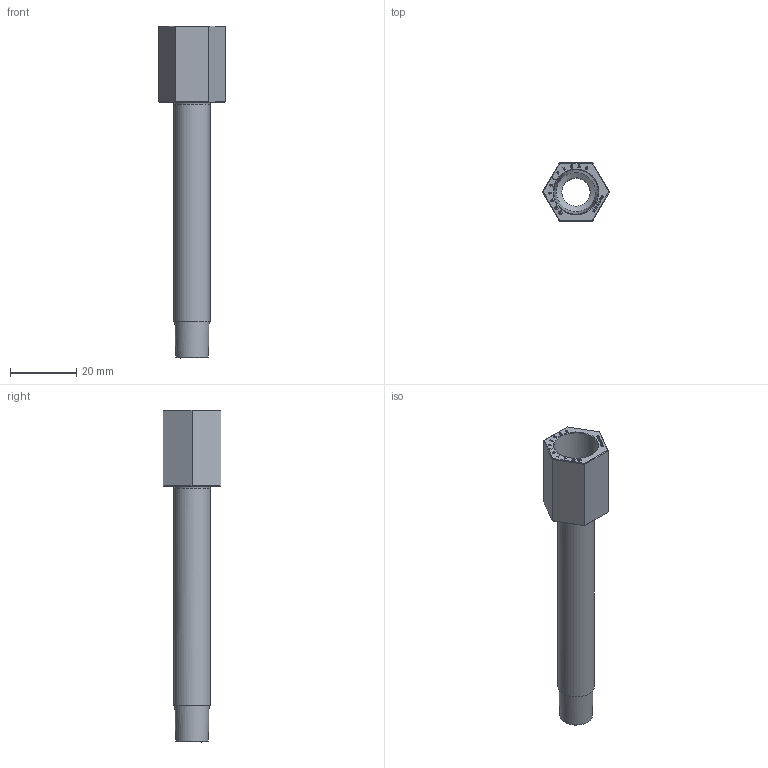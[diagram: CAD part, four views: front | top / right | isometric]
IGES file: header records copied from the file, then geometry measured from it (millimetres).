
Start section: C
Global section: file name: P1-8-1-4-100.igs; native system: By Siemens PLM Incorporated; preprocessor: XPlus GENERIC/IGES 18.0.17; author: Author; organization: Title; date: 20240807.092028; units: millimetre
Bounding box: 20.16 x 17.46 x 100 mm (x, y, z)
Volume: 6323.4 mm3; surface area: 7261.3 mm2
Topology: 1 solids, 1 shells, 293 faces, 753 edges, 498 vertices
Faces by surface type: bspline 293
